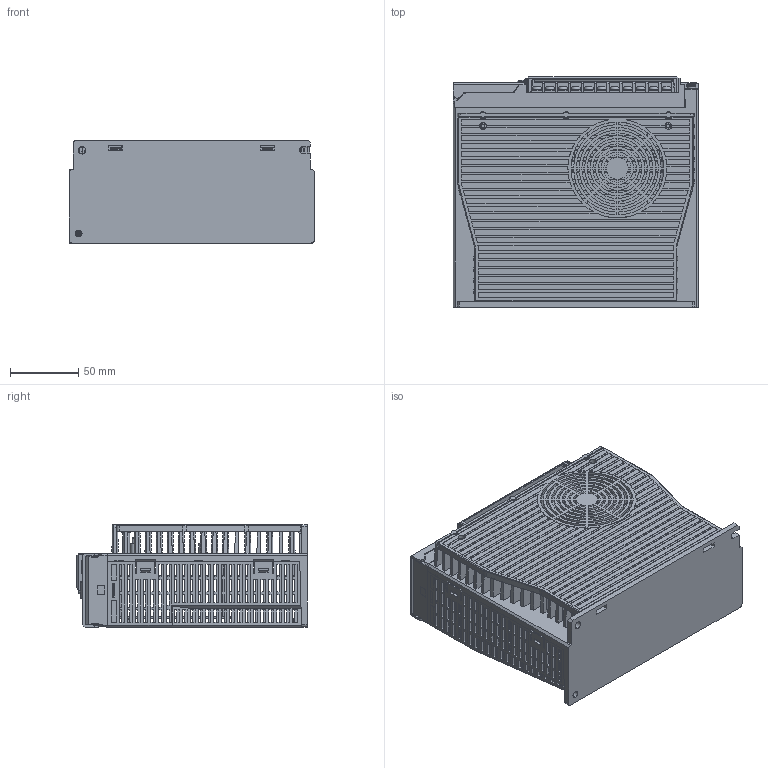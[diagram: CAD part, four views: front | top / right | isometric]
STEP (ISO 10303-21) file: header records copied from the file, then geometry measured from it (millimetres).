
FILE_DESCRIPTION (( 'STEP AP214' ), '1' );
FILE_NAME ('JASD-2KW.STEP', '2017-07-20T08:01:37', ( 'Sky123.Org' ), ( 'Sky123.Org' ), 'SwSTEP 2.0', 'SolidWorks 2010', '' );
FILE_SCHEMA (( 'AUTOMOTIVE_DESIGN' ));
Length unit declared in the file: millimetre
Products named in the file (17): M4x8郪磁蹟佪; RJ45; JASD-2KW散热器; JASD-2KW; DG45-B-11; 2KW髡薹啣; JASD-2KW綴裔; M3-28; DG45-L; DG45; JASD-2KW楹裔1; JASD-2KW醱啣; JASD-2KW裔赽; SCSI-20; SCSI-50; 2KW諷秶啣; 楹裔
Assembly tree (31 placements, depth 3):
  JASD-2KW
    M4x8郪磁蹟佪  x2
    楹裔
    2KW髡薹啣
    RJ45  x2
    SCSI-50
    JASD-2KW散热器
    JASD-2KW楹裔1
    M3-28  x4
    DG45-B-11
      DG45-L  x11
      DG45
    2KW諷秶啣
    JASD-2KW裔赽
    JASD-2KW醱啣
    SCSI-20
    JASD-2KW綴裔
Bounding box: 180.22 x 169.02 x 75.2 mm (x, y, z)
Volume: 507793.9 mm3; surface area: 438678.1 mm2
Topology: 34 solids, 38 shells, 5188 faces, 14692 edges, 9629 vertices
Faces by surface type: plane 3751, cylinder 1029, bspline 229, cone 131, torus 48
Entity records: 184287 total; most frequent: CARTESIAN_POINT 44302, ORIENTED_EDGE 24056, DIRECTION 20104, EDGE_CURVE 12028, LINE 9654, VECTOR 9654, VERTEX_POINT 7925, AXIS2_PLACEMENT_3D 5225
